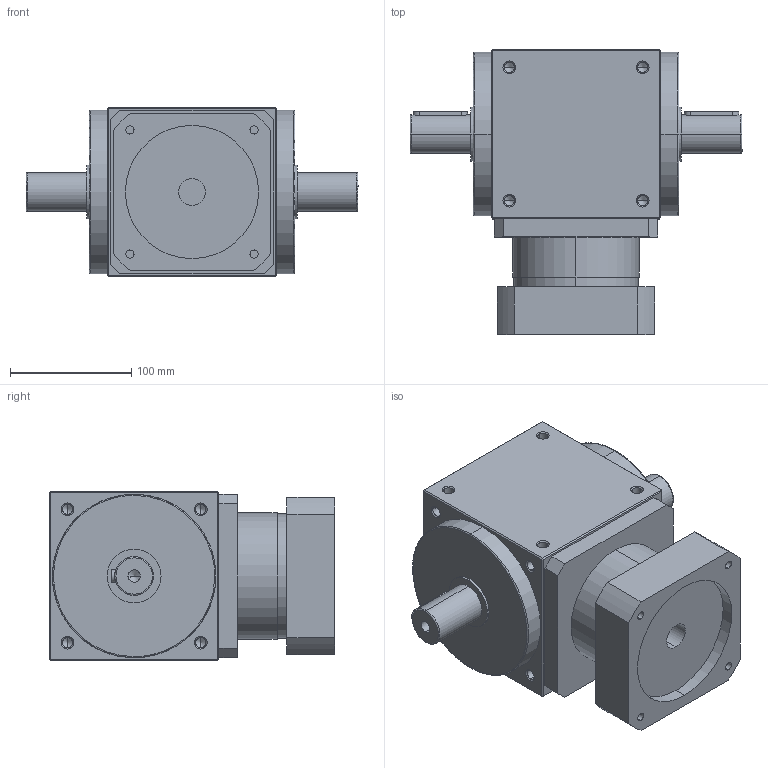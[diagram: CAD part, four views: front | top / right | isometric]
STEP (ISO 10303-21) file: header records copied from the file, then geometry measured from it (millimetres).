
FILE_DESCRIPTION (( 'STEP AP214' ), '1' );
FILE_NAME ('AT140-FL1-001 22-110-145-M8.STEP', '2020-11-11T03:31:50', ( '微软用户' ), ( '微软中国' ), 'SwSTEP 2.0', 'SolidWorks 2014', '' );
FILE_SCHEMA (( 'AUTOMOTIVE_DESIGN' ));
Length unit declared in the file: millimetre
Products named in the file (2): AT140-FL1-001 22-110-145-M8
Bounding box: 274 x 235.5 x 140 mm (x, y, z)
Volume: 4388014.8 mm3; surface area: 219768.1 mm2
Topology: 3 solids, 3 shells, 282 faces, 718 edges, 412 vertices
Faces by surface type: cylinder 120, cone 88, plane 66, bspline 6, torus 2
Entity records: 11280 total; most frequent: CARTESIAN_POINT 1978, ORIENTED_EDGE 1348, DIRECTION 1332, EDGE_CURVE 674, AXIS2_PLACEMENT_3D 510, VERTEX_POINT 412, EDGE_LOOP 320, LINE 312
